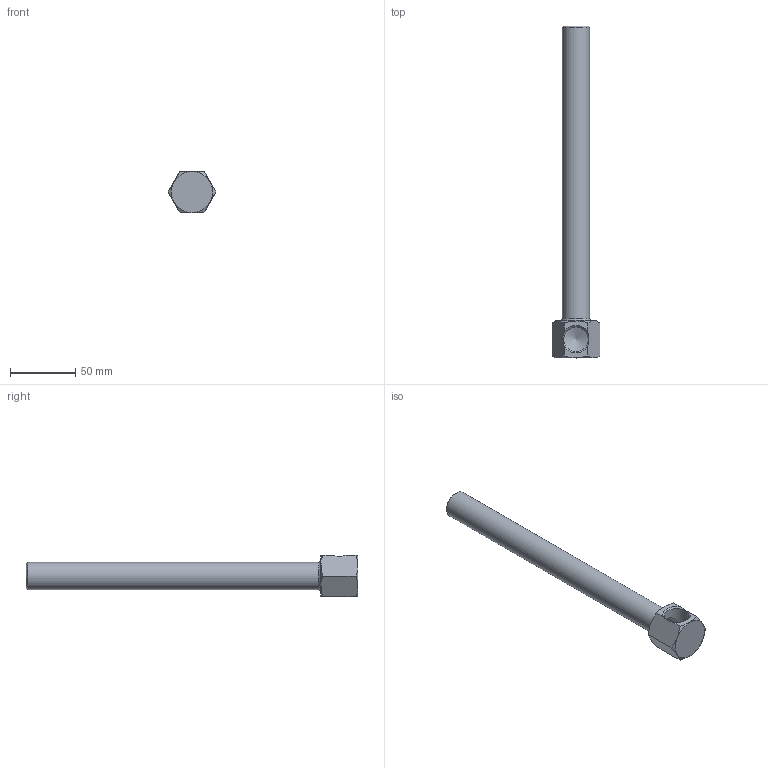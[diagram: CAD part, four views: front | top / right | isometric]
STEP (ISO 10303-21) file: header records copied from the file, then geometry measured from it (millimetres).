
FILE_DESCRIPTION(/* description */ (''),/* implementation_level */ '2;1');
FILE_NAME(/* name */ 'C:/Users/drich/Desktop/50B-10 v1.step',/* time_stamp */ '2019-12-29T15:26:27-06:00',/* author */ (''),/* organization */ (''),/* preprocessor_version */ 'ST-DEVELOPER v18',/* originating_system */ 'Autodesk Translation Framework v8.12.0.6',/* authorisation */ '');
FILE_SCHEMA (('AUTOMOTIVE_DESIGN { 1 0 10303 214 3 1 1 }'));
Length unit declared in the file: inch
Products named in the file (1): 50B-10
Bounding box: 36.66 x 254 x 31.75 mm (x, y, z)
Volume: 53296.9 mm3; surface area: 31413.3 mm2
Topology: 1 solids, 1 shells, 20 faces, 53 edges, 35 vertices
Faces by surface type: plane 10, cone 6, cylinder 3, torus 1
Full cylindrical faces by diameter (mm): 15.062 x1, 18.901 x1, 20.813 x1
Entity records: 687 total; most frequent: CARTESIAN_POINT 184, ORIENTED_EDGE 104, DIRECTION 91, EDGE_CURVE 52, AXIS2_PLACEMENT_3D 37, VERTEX_POINT 35, EDGE_LOOP 23, FACE_OUTER_BOUND 20
